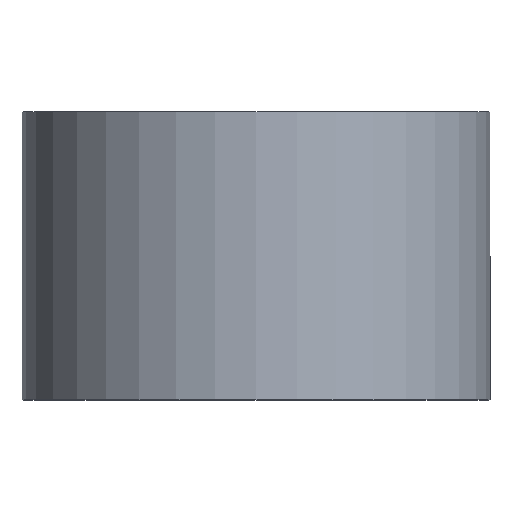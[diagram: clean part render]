
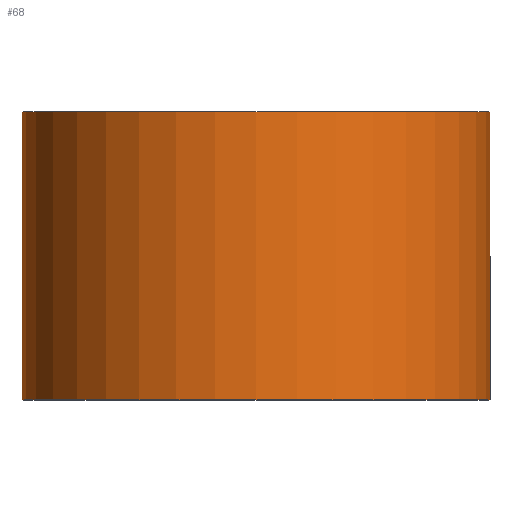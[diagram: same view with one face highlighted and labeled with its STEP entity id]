
A CAD part, top view. The second image highlights one B-rep face of the part: STEP entity #68.
In plain terms, the highlighted cylindrical face has radius 13 mm (diameter 26 mm), a partial arc.
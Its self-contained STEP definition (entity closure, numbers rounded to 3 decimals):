
#1 = DIRECTION ( 'NONE',  ( 0., 1., 0. ) ) ;
#5 = VERTEX_POINT ( 'NONE', #131 ) ;
#16 = EDGE_CURVE ( 'NONE', #109, #5, #200, .T. ) ;
#26 = DIRECTION ( 'NONE',  ( -1., 0., 0. ) ) ;
#29 = CARTESIAN_POINT ( 'NONE',  ( -13., 0., 0. ) ) ;
#48 = CYLINDRICAL_SURFACE ( 'NONE', #192, 13. ) ;
#59 = EDGE_CURVE ( 'NONE', #62, #146, #85, .T. ) ;
#62 = VERTEX_POINT ( 'NONE', #29 ) ;
#64 = CARTESIAN_POINT ( 'NONE',  ( 13., 0., 0. ) ) ;
#68 = ADVANCED_FACE ( 'NONE', ( #225 ), #48, .T. ) ;
#76 = LINE ( 'NONE', #64, #193 ) ;
#80 = DIRECTION ( 'NONE',  ( 0., 1., 0. ) ) ;
#85 = CIRCLE ( 'NONE', #231, 13. ) ;
#106 = DIRECTION ( 'NONE',  ( 0., 1., 0. ) ) ;
#109 = VERTEX_POINT ( 'NONE', #203 ) ;
#124 = AXIS2_PLACEMENT_3D ( 'NONE', #169, #80, #220 ) ;
#129 = EDGE_LOOP ( 'NONE', ( #182, #194, #191, #158 ) ) ;
#131 = CARTESIAN_POINT ( 'NONE',  ( 13., 16., 0. ) ) ;
#146 = VERTEX_POINT ( 'NONE', #147 ) ;
#147 = CARTESIAN_POINT ( 'NONE',  ( 13., 0., 0. ) ) ;
#150 = CARTESIAN_POINT ( 'NONE',  ( 0., 0., 0. ) ) ;
#155 = CARTESIAN_POINT ( 'NONE',  ( -13., 0., 0. ) ) ;
#158 = ORIENTED_EDGE ( 'NONE', *, *, #187, .F. ) ;
#169 = CARTESIAN_POINT ( 'NONE',  ( 0., 16., 0. ) ) ;
#182 = ORIENTED_EDGE ( 'NONE', *, *, #59, .T. ) ;
#187 = EDGE_CURVE ( 'NONE', #62, #109, #279, .T. ) ;
#191 = ORIENTED_EDGE ( 'NONE', *, *, #16, .F. ) ;
#192 = AXIS2_PLACEMENT_3D ( 'NONE', #150, #1, #26 ) ;
#193 = VECTOR ( 'NONE', #205, 1000. ) ;
#194 = ORIENTED_EDGE ( 'NONE', *, *, #256, .T. ) ;
#200 = CIRCLE ( 'NONE', #124, 13. ) ;
#203 = CARTESIAN_POINT ( 'NONE',  ( -13., 16., 0. ) ) ;
#205 = DIRECTION ( 'NONE',  ( 0., 1., 0. ) ) ;
#215 = VECTOR ( 'NONE', #106, 1000. ) ;
#220 = DIRECTION ( 'NONE',  ( -1., 0., 0. ) ) ;
#225 = FACE_OUTER_BOUND ( 'NONE', #129, .T. ) ;
#231 = AXIS2_PLACEMENT_3D ( 'NONE', #261, #240, #257 ) ;
#240 = DIRECTION ( 'NONE',  ( 0., 1., 0. ) ) ;
#256 = EDGE_CURVE ( 'NONE', #146, #5, #76, .T. ) ;
#257 = DIRECTION ( 'NONE',  ( -1., 0., 0. ) ) ;
#261 = CARTESIAN_POINT ( 'NONE',  ( 0., 0., 0. ) ) ;
#279 = LINE ( 'NONE', #155, #215 ) ;
